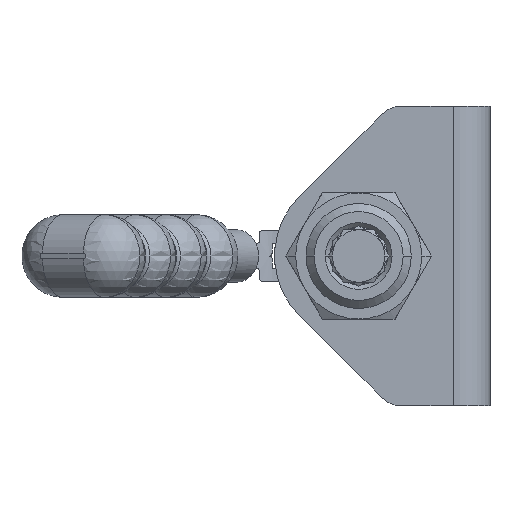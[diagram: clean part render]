
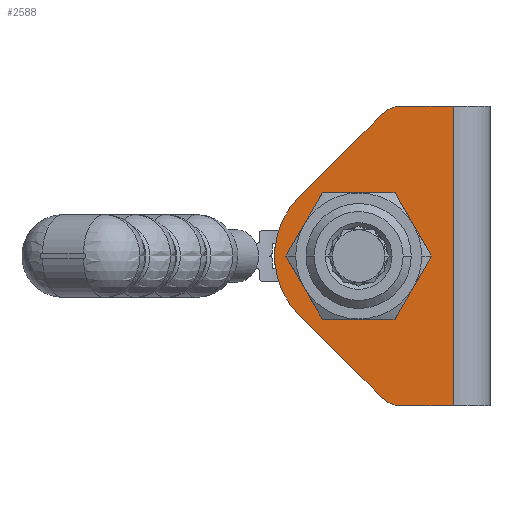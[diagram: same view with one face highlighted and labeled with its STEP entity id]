
A CAD part, left-side view. The second image highlights one B-rep face of the part: STEP entity #2588.
In plain terms, the highlighted planar face has unit normal (-1, 0, 0).
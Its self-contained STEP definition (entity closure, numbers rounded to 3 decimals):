
#1788 = EDGE_CURVE( '', #2950, #4182, #5069, .T. );
#1822 = EDGE_CURVE( '', #4182, #2544, #5108, .T. );
#2010 = VERTEX_POINT( '', #5308 );
#2050 = VERTEX_POINT( '', #5356 );
#2340 = EDGE_CURVE( '', #2852, #3694, #5682, .T. );
#2544 = VERTEX_POINT( '', #5910 );
#2588 = ADVANCED_FACE( '', ( #5961, #5962 ), #5963, .T. );
#2846 = EDGE_CURVE( '', #2852, #2950, #6253, .T. );
#2852 = VERTEX_POINT( '', #6259 );
#2868 = EDGE_CURVE( '', #2544, #3428, #6277, .T. );
#2906 = EDGE_CURVE( '', #3694, #4624, #6319, .T. );
#2950 = VERTEX_POINT( '', #6367 );
#3158 = EDGE_CURVE( '', #2010, #3344, #6597, .T. );
#3344 = VERTEX_POINT( '', #6804 );
#3360 = EDGE_CURVE( '', #3428, #2050, #6823, .T. );
#3428 = VERTEX_POINT( '', #6897 );
#3694 = VERTEX_POINT( '', #7189 );
#4182 = VERTEX_POINT( '', #7728 );
#4274 = EDGE_CURVE( '', #2050, #4624, #7826, .T. );
#4624 = VERTEX_POINT( '', #8217 );
#4716 = EDGE_CURVE( '', #3344, #2010, #8319, .T. );
#5069 = LINE( '', #8747, #8748 );
#5108 = CIRCLE( '', #8809, 16. );
#5308 = CARTESIAN_POINT( '', ( 0., 0., -10.1 ) );
#5356 = CARTESIAN_POINT( '', ( 0., -8., -28.5 ) );
#5682 = LINE( '', #9771, #9772 );
#5910 = CARTESIAN_POINT( '', ( 0., 11.293, -11.334 ) );
#5961 = FACE_BOUND( '', #10214, .T. );
#5962 = FACE_OUTER_BOUND( '', #10215, .T. );
#5963 = PLANE( '', #10216 );
#6253 = CIRCLE( '', #10680, 5. );
#6259 = CARTESIAN_POINT( '', ( 0., -8., 28.5 ) );
#6277 = LINE( '', #10711, #10712 );
#6319 = LINE( '', #10766, #10767 );
#6367 = CARTESIAN_POINT( '', ( 0., -4.471, 27.042 ) );
#6597 = CIRCLE( '', #11268, 10.1 );
#6804 = CARTESIAN_POINT( '', ( 0., 0., 10.1 ) );
#6823 = CIRCLE( '', #11608, 5. );
#6897 = CARTESIAN_POINT( '', ( 0., -4.471, -27.042 ) );
#7189 = CARTESIAN_POINT( '', ( 0., -18., 28.5 ) );
#7728 = CARTESIAN_POINT( '', ( 0., 11.293, 11.334 ) );
#7826 = LINE( '', #13253, #13254 );
#8217 = CARTESIAN_POINT( '', ( 0., -18., -28.5 ) );
#8319 = CIRCLE( '', #14077, 10.1 );
#8747 = CARTESIAN_POINT( '', ( 0., 8.183, 14.433 ) );
#8748 = VECTOR( '', #14600, 1. );
#8809 = AXIS2_PLACEMENT_3D( '', #14653, #14654, #14655 );
#9771 = CARTESIAN_POINT( '', ( 0., 16., 28.5 ) );
#9772 = VECTOR( '', #15319, 1. );
#10214 = EDGE_LOOP( '', ( #15710, #15711 ) );
#10215 = EDGE_LOOP( '', ( #15712, #15713, #15714, #15715, #15716, #15717, #15718, #15719 ) );
#10216 = AXIS2_PLACEMENT_3D( '', #15720, #15721, #15722 );
#10680 = AXIS2_PLACEMENT_3D( '', #16071, #16072, #16073 );
#10711 = CARTESIAN_POINT( '', ( 0., 14.551, -8.088 ) );
#10712 = VECTOR( '', #16096, 1. );
#10766 = CARTESIAN_POINT( '', ( 0., -18., 28.5 ) );
#10767 = VECTOR( '', #16138, 1. );
#11268 = AXIS2_PLACEMENT_3D( '', #16475, #16476, #16477 );
#11608 = AXIS2_PLACEMENT_3D( '', #16763, #16764, #16765 );
#13253 = CARTESIAN_POINT( '', ( 0., 16., -28.5 ) );
#13254 = VECTOR( '', #17877, 1. );
#14077 = AXIS2_PLACEMENT_3D( '', #18465, #18466, #18467 );
#14600 = DIRECTION( '', ( 0., 0.708, -0.706 ) );
#14653 = CARTESIAN_POINT( '', ( 0., 0., 0. ) );
#14654 = DIRECTION( '', ( -1., 0., 0. ) );
#14655 = DIRECTION( '', ( 0., 0.706, -0.708 ) );
#15319 = DIRECTION( '', ( 0., -1., 0. ) );
#15710 = ORIENTED_EDGE( '', *, *, #3158, .T. );
#15711 = ORIENTED_EDGE( '', *, *, #4716, .T. );
#15712 = ORIENTED_EDGE( '', *, *, #3360, .T. );
#15713 = ORIENTED_EDGE( '', *, *, #4274, .T. );
#15714 = ORIENTED_EDGE( '', *, *, #2906, .F. );
#15715 = ORIENTED_EDGE( '', *, *, #2340, .F. );
#15716 = ORIENTED_EDGE( '', *, *, #2846, .T. );
#15717 = ORIENTED_EDGE( '', *, *, #1788, .T. );
#15718 = ORIENTED_EDGE( '', *, *, #1822, .T. );
#15719 = ORIENTED_EDGE( '', *, *, #2868, .T. );
#15720 = CARTESIAN_POINT( '', ( 0., 16., 28.5 ) );
#15721 = DIRECTION( '', ( -1., 0., 0. ) );
#15722 = DIRECTION( '', ( 0., 1., 0. ) );
#16071 = CARTESIAN_POINT( '', ( 0., -8., 23.5 ) );
#16072 = DIRECTION( '', ( -1., 0., 0. ) );
#16073 = DIRECTION( '', ( 0., 0.706, 0.708 ) );
#16096 = DIRECTION( '', ( 0., -0.708, -0.706 ) );
#16138 = DIRECTION( '', ( 0., 0., -1. ) );
#16475 = CARTESIAN_POINT( '', ( 0., 0., 0. ) );
#16476 = DIRECTION( '', ( 1., 0., 0. ) );
#16477 = DIRECTION( '', ( 0., 0., -1. ) );
#16763 = CARTESIAN_POINT( '', ( 0., -8., -23.5 ) );
#16764 = DIRECTION( '', ( -1., 0., 0. ) );
#16765 = DIRECTION( '', ( 0., 0., -1. ) );
#17877 = DIRECTION( '', ( 0., -1., 0. ) );
#18465 = CARTESIAN_POINT( '', ( 0., 0., 0. ) );
#18466 = DIRECTION( '', ( 1., 0., 0. ) );
#18467 = DIRECTION( '', ( 0., 0., -1. ) );
